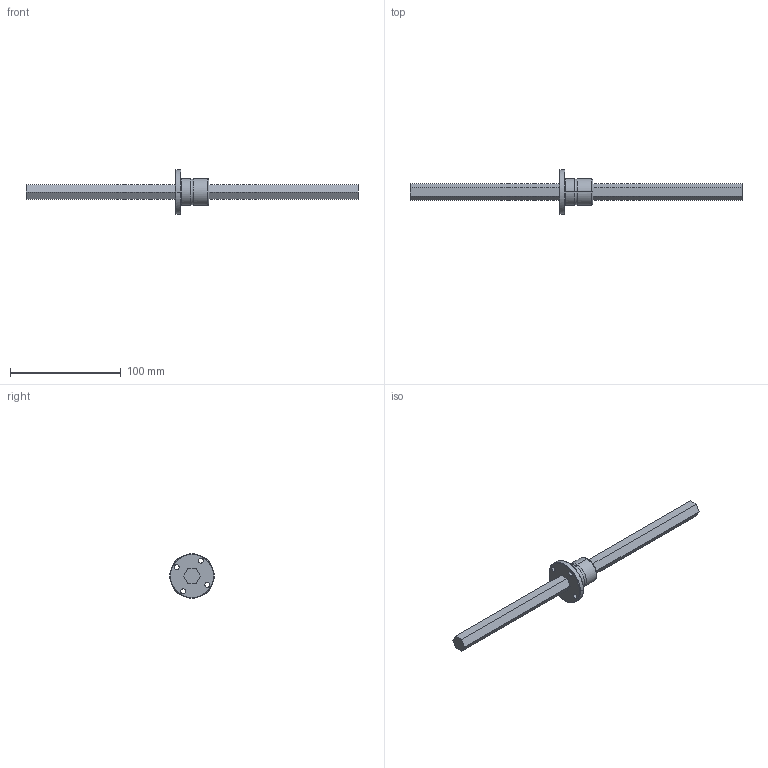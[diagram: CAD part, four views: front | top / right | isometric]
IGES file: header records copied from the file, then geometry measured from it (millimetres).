
Global section: file name: No Iges File Name specified; native system: AutoDesk Inventor R10; preprocessor: AutoDesk Inventor Iges Exporter R10; author: No Author specified; organization: No Organization specified; date: 20101224.162139; units: millimetre
Bounding box: 300 x 40 x 40 mm (x, y, z)
Surface area: 20069.8 mm2 (no closed solid volume)
Topology: 0 solids, 0 shells, 53 faces, 348 edges, 348 vertices
Faces by surface type: bspline 53
